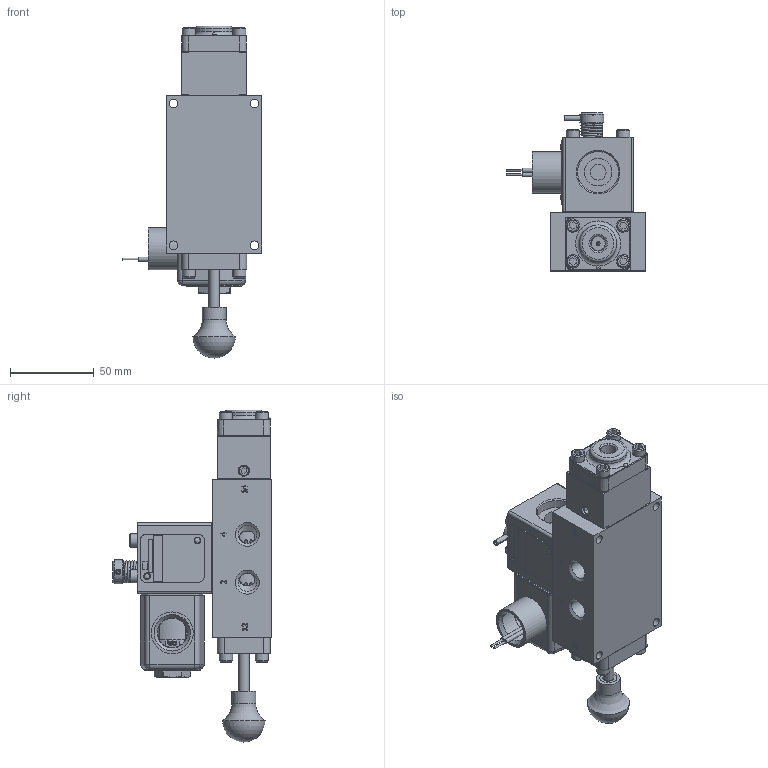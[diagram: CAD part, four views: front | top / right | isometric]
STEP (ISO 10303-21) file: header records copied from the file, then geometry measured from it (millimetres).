
FILE_DESCRIPTION(/* description */ (''),/* implementation_level */ '2;1');
FILE_NAME(/* name */ 'SR2ONOSQ.stp',/* time_stamp */ '2025-03-02T10:22:54-05:00',/* author */ ('rmckenna'),/* organization */ (''),/* preprocessor_version */ 'ST-DEVELOPER v20',/* originating_system */ 'Autodesk Inventor 2024',/* authorisation */ '');
FILE_SCHEMA (('AUTOMOTIVE_DESIGN { 1 0 10303 214 3 1 1 }'));
Products named in the file (1): Part106
Bounding box: 83.63 x 94.76 x 198.73 mm (x, y, z)
Volume: 350129 mm3; surface area: 118906.8 mm2
Topology: 2 solids, 41 shells, 1769 faces, 4261 edges, 2721 vertices
Faces by surface type: plane 808, cylinder 373, cone 309, bspline 140, torus 131, sphere 8
Full cylindrical faces by diameter (mm): 1.016 x1, 1.041 x1, 1.168 x2, 1.321 x1, 1.397 x1, 1.727 x3, 2.07 x2, 2.261 x2, 2.35 x1, 2.362 x2, 2.381 x2, 2.54 x2, 2.778 x2, 3.048 x4, 3.175 x6, 3.302 x1, 3.683 x12, 3.912 x1, 3.962 x1, 4.366 x8, 4.826 x16, 4.978 x2, 5.105 x4, 5.156 x16, 5.159 x9, 5.537 x5, 5.639 x1, 5.944 x1, 6.35 x2, 6.629 x2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
Entity records: 59399 total; most frequent: CARTESIAN_POINT 16840, ORIENTED_EDGE 8456, DIRECTION 8165, EDGE_CURVE 4228, AXIS2_PLACEMENT_3D 3002, VERTEX_POINT 2721, LINE 2161, VECTOR 2161
